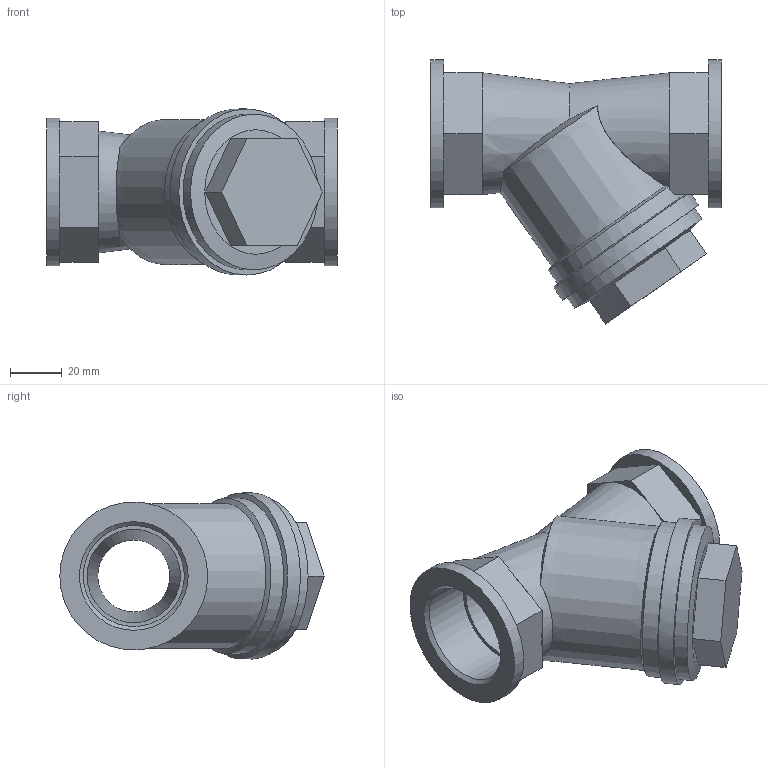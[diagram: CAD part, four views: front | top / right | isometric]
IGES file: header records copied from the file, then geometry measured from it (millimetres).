
Start section: Data from Parasolid IGES Translator 15.0.47, Copyright(c) 2006 Siemens P LM Software. All Rights Reserved.
Global section: file name: 60-6_K.igs; native system:  By UGS Corp.; preprocessor: XPlus GENERIC/IGES 3.0; author: Noname; organization: Noname; date: 20140806.101534; units: millimetre
Bounding box: 112 x 101.88 x 64 mm (x, y, z)
Surface area: 43612.8 mm2 (no closed solid volume)
Topology: 0 solids, 0 shells, 59 faces, 282 edges, 270 vertices
Faces by surface type: extrusion 39, revolution 20
